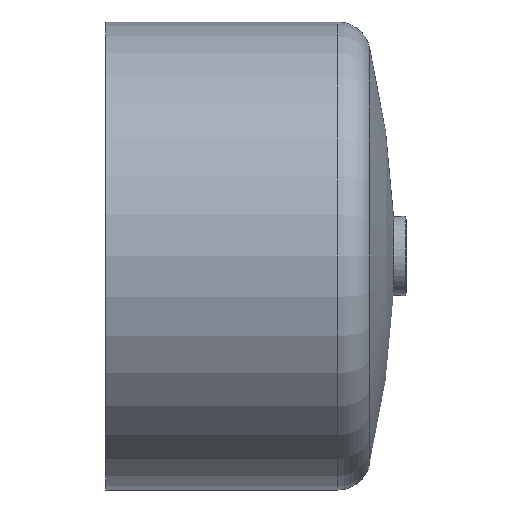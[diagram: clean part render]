
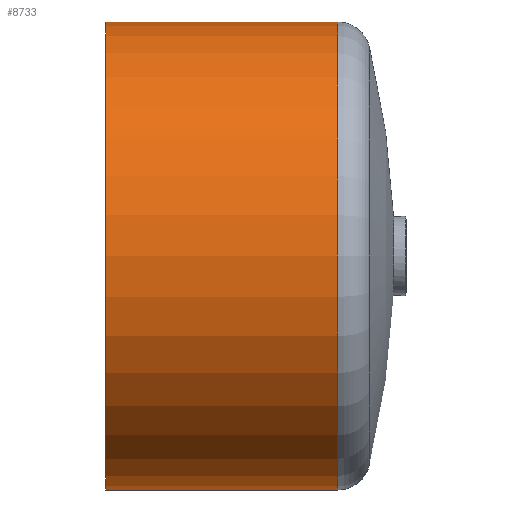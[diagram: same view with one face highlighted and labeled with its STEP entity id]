
A CAD part, front view. The second image highlights one B-rep face of the part: STEP entity #8733.
In plain terms, the highlighted cylindrical face has radius 125 mm (diameter 250 mm), a full revolution.
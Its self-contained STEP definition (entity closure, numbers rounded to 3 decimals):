
#406=CYLINDRICAL_SURFACE('',#9643,125.);
#4076=ORIENTED_EDGE('',*,*,#5439,.T.);
#4077=ORIENTED_EDGE('',*,*,#5438,.T.);
#5438=EDGE_CURVE('',#6207,#6207,#6831,.T.);
#5439=EDGE_CURVE('',#6208,#6208,#6832,.T.);
#6207=VERTEX_POINT('',#21667);
#6208=VERTEX_POINT('',#21670);
#6831=CIRCLE('',#9642,125.);
#6832=CIRCLE('',#9644,125.);
#7455=EDGE_LOOP('',(#4076));
#7456=EDGE_LOOP('',(#4077));
#8082=FACE_BOUND('',#7455,.T.);
#8083=FACE_BOUND('',#7456,.T.);
#8733=ADVANCED_FACE('',(#8082,#8083),#406,.T.);
#9642=AXIS2_PLACEMENT_3D('',#21666,#11468,#11469);
#9643=AXIS2_PLACEMENT_3D('',#21668,#11470,#11471);
#9644=AXIS2_PLACEMENT_3D('',#21669,#11472,#11473);
#11468=DIRECTION('',(-1.,0.,0.));
#11469=DIRECTION('',(0.,0.,1.));
#11470=DIRECTION('',(-1.,0.,0.));
#11471=DIRECTION('',(0.,0.,1.));
#11472=DIRECTION('',(1.,0.,0.));
#11473=DIRECTION('',(0.,0.,-1.));
#21666=CARTESIAN_POINT('',(135.,0.,0.));
#21667=CARTESIAN_POINT('',(135.,0.,125.));
#21668=CARTESIAN_POINT('',(60.,0.,0.));
#21669=CARTESIAN_POINT('',(11.,0.,0.));
#21670=CARTESIAN_POINT('',(11.,0.,-125.));
